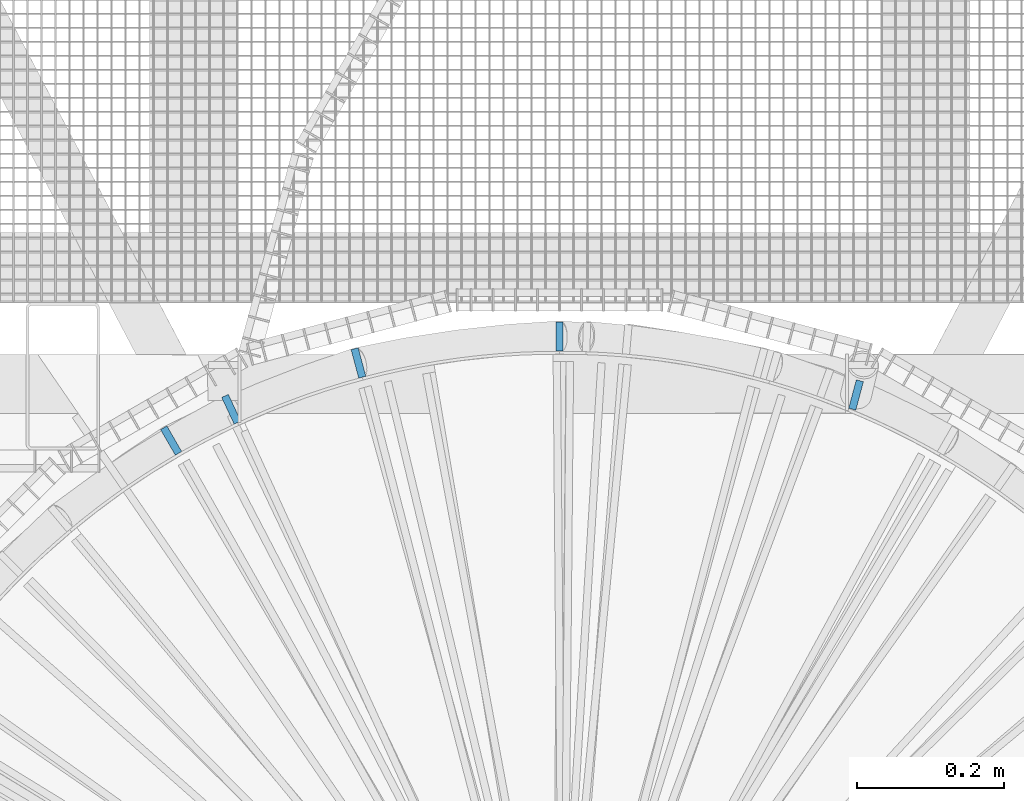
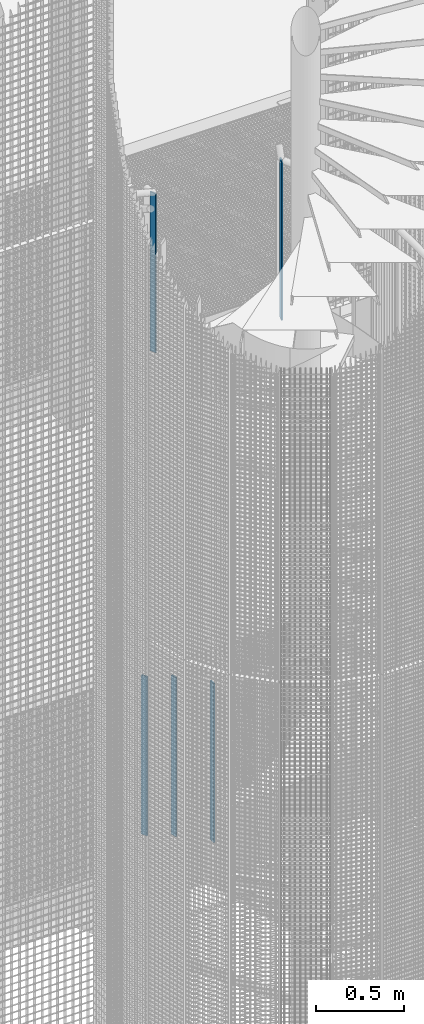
# One storey, part 25 of 1148: 5 columns, 4 elements without a shape of their own.
"""IFC2X3 building model written with IfcOpenShell, lengths in millimetres."""

from ifc_helpers import new_model, si_unit, frame, origin_with_axes, origin_2d_with_axis, place, context, subcontext, project, spatial, rectangle, extrude, material, type_object, element, aggregate, save


model = new_model("IFC2X3")

# Units and contexts
model_context = context("Model", 3, precision=1e-05, world=origin_with_axes())
body_context = subcontext(model_context, "Body", "Model", "MODEL_VIEW")
ifc_project = project(units=[si_unit("LENGTHUNIT", "METRE", prefix="MILLI"), si_unit("AREAUNIT", "SQUARE_METRE"), si_unit("VOLUMEUNIT", "CUBIC_METRE"), si_unit("MASSUNIT", "GRAM", prefix="KILO"), si_unit("TIMEUNIT", "SECOND"), si_unit("PLANEANGLEUNIT", "RADIAN"), si_unit("SOLIDANGLEUNIT", "STERADIAN"), si_unit("THERMODYNAMICTEMPERATUREUNIT", "DEGREE_CELSIUS"), si_unit("LUMINOUSINTENSITYUNIT", "LUMEN")], contexts=[model_context])

# Site, building, storey
site_placement = place(None, origin_with_axes())
site = spatial("IfcSite", under=ifc_project, at=site_placement, Name="Undefined", CompositionType="ELEMENT")
building_placement = place(site_placement, origin_with_axes())
building = spatial("IfcBuilding", under=site, at=building_placement, Name="Undefined", CompositionType="ELEMENT")
storey_placement = place(building_placement, origin_with_axes())
storey = spatial("IfcBuildingStorey", under=building, at=storey_placement, Name="Undefined", CompositionType="ELEMENT", Elevation=0.0)

# Assembly, column
assembly_1_placement = place(storey_placement, origin_with_axes())
assembly_1 = element("IfcElementAssembly", 1, at=assembly_1_placement, inside=storey, Name="MONTANT", AssemblyPlace="NOTDEFINED", PredefinedType="NOTDEFINED")
ifc_material = material(Name="STEEL/S235JR")
column_type = type_object("IfcColumnType", Name="PL10*40", PredefinedType="NOTDEFINED")
column_1_placement = place(assembly_1_placement, frame((402.405273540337, 974.645820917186, 10009.99), z_axis=(0.0, 0.0, 1.0), x_axis=(-0.258819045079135, -0.965925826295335, 0.0)))
column_1 = element("IfcColumn", 2, at=column_1_placement, type_object=column_type, material=ifc_material, Name="MONTANT", context=body_context, shape_type="SweptSolid", body=[
    extrude(rectangle(XDim=10.0, YDim=40.0, at=origin_2d_with_axis()), frame((0.0, 0.0, 1100.0), z_axis=(0.0, 0.0, -1.0), x_axis=(0.0, 1.0, 0.0)), (0.0, 0.0, 1.0), 1100.0),
])
aggregate(assembly_1, [column_1])

assembly_2_placement = place(storey_placement, origin_with_axes())
assembly_2 = element("IfcElementAssembly", 3, at=assembly_2_placement, inside=storey, Name="MONTANT", AssemblyPlace="NOTDEFINED", PredefinedType="NOTDEFINED")
column_2_placement = place(assembly_2_placement, frame((-445.439647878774, 955.248407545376, 10090.0), z_axis=(0.0, 0.0, 1.0), x_axis=(0.422618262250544, -0.906307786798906, -1.9012441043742e-10)))
column_2 = element("IfcColumn", 4, at=column_2_placement, type_object=column_type, material=ifc_material, Name="MONTANT", context=body_context, shape_type="SweptSolid", body=[
    extrude(rectangle(XDim=10.0, YDim=40.0, at=origin_2d_with_axis()), frame((0.0, 0.0, 1100.0), z_axis=(0.0, 0.0, -1.0), x_axis=(0.0, 1.0, 0.0)), (0.0, 0.0, 1.0), 1100.0),
])
aggregate(assembly_2, [column_2])

assembly_3_placement = place(storey_placement, origin_with_axes())
assembly_3 = element("IfcElementAssembly", 5, at=assembly_3_placement, inside=storey, Name="MONTANT", AssemblyPlace="NOTDEFINED", PredefinedType="NOTDEFINED")
column_3_placement = place(assembly_3_placement, frame((-272.795273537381, 1018.08582090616, 6646.52), z_axis=(0.0, 0.0, 1.0), x_axis=(0.258819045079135, -0.965925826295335, 0.0)))
column_3 = element("IfcColumn", 6, at=column_3_placement, type_object=column_type, material=ifc_material, Name="MONTANT", context=body_context, shape_type="SweptSolid", body=[
    extrude(rectangle(XDim=10.0, YDim=40.0, at=origin_2d_with_axis()), frame((0.0, 0.0, 1100.0), z_axis=(0.0, 0.0, -1.0), x_axis=(0.0, 1.0, 0.0)), (0.0, 0.0, 1.0), 1100.0),
])

assembly_4_placement = place(storey_placement, origin_with_axes())
assembly_4 = element("IfcElementAssembly", 7, at=assembly_4_placement, inside=storey, Name="MONTANT", AssemblyPlace="NOTDEFINED", PredefinedType="NOTDEFINED")
column_4_placement = place(assembly_4_placement, frame((-527.000000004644, 912.790775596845, 6803.04), z_axis=(0.0, 0.0, 1.0), x_axis=(0.499999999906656, -0.866025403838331, 0.0)))
column_4 = element("IfcColumn", 8, at=column_4_placement, type_object=column_type, material=ifc_material, Name="MONTANT", context=body_context, shape_type="SweptSolid", body=[
    extrude(rectangle(XDim=10.0, YDim=40.0, at=origin_2d_with_axis()), frame((0.0, 0.0, 1100.0), z_axis=(0.0, 0.0, -1.0), x_axis=(0.0, 1.0, 0.0)), (0.0, 0.0, 1.0), 1100.0),
])
aggregate(assembly_4, [column_4])

# Column
column_5_placement = place(assembly_3_placement, frame((2.72848410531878e-12, 1054.00000000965, 6490.0), z_axis=(0.0, 0.0, 1.0), x_axis=(0.0, -1.0, 0.0)))
column_5 = element("IfcColumn", 9, at=column_5_placement, type_object=column_type, material=ifc_material, Name="MONTANT", context=body_context, shape_type="SweptSolid", body=[
    extrude(rectangle(XDim=10.0, YDim=40.0, at=origin_2d_with_axis()), frame((0.0, 0.0, 1100.0), z_axis=(0.0, 0.0, -1.0), x_axis=(0.0, 1.0, 0.0)), (0.0, 0.0, 1.0), 1100.0),
])

aggregate(assembly_3, [column_3, column_5])

save(model, "model.ifc")
